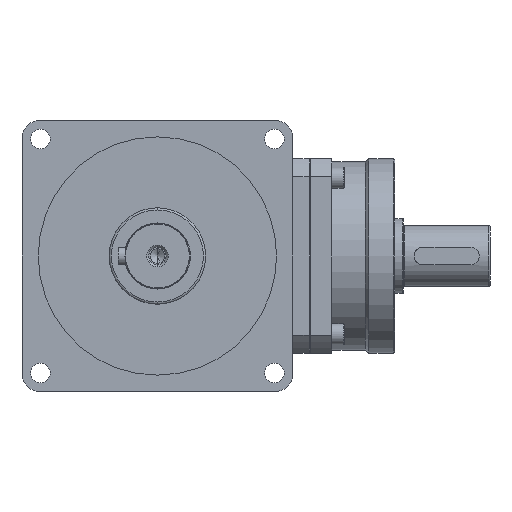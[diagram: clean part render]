
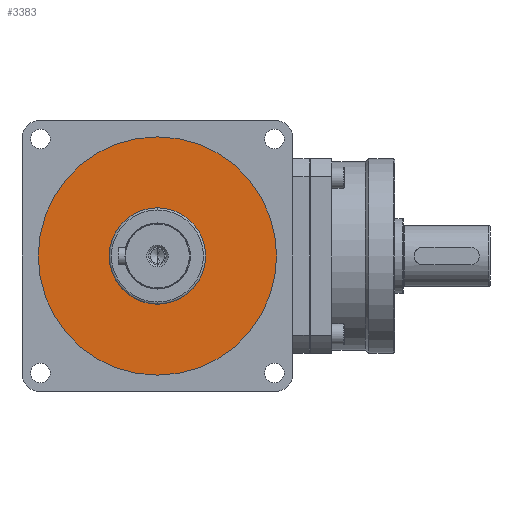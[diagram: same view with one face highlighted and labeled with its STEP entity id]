
A CAD part, left-side view. The second image highlights one B-rep face of the part: STEP entity #3383.
In plain terms, the highlighted planar face has unit normal (-1, 0, 0).
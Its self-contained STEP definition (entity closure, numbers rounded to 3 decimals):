
#52 = DIRECTION ( 'NONE',  ( 0., 0., 1. ) ) ;
#63 = ORIENTED_EDGE ( 'NONE', *, *, #4361, .T. ) ;
#266 = FACE_OUTER_BOUND ( 'NONE', #13975, .T. ) ;
#273 = AXIS2_PLACEMENT_3D ( 'NONE', #4653, #13395, #3563 ) ;
#1342 = FACE_BOUND ( 'NONE', #12687, .T. ) ;
#1376 = DIRECTION ( 'NONE',  ( -1., 0., 0. ) ) ;
#1474 = AXIS2_PLACEMENT_3D ( 'NONE', #5781, #9914, #6700 ) ;
#1875 = CIRCLE ( 'NONE', #4636, 55. ) ;
#2087 = AXIS2_PLACEMENT_3D ( 'NONE', #9760, #13177, #7403 ) ;
#2660 = VERTEX_POINT ( 'NONE', #4909 ) ;
#3233 = EDGE_CURVE ( 'NONE', #5793, #12661, #12097, .T. ) ;
#3383 = ADVANCED_FACE ( 'NONE', ( #1342, #266 ), #5701, .T. ) ;
#3563 = DIRECTION ( 'NONE',  ( 0., 0., 1. ) ) ;
#4361 = EDGE_CURVE ( 'NONE', #12661, #5793, #1875, .T. ) ;
#4636 = AXIS2_PLACEMENT_3D ( 'NONE', #5804, #1376, #5733 ) ;
#4653 = CARTESIAN_POINT ( 'NONE',  ( -41.5, 0., 0. ) ) ;
#4909 = CARTESIAN_POINT ( 'NONE',  ( -41.5, 0., 22.25 ) ) ;
#5288 = AXIS2_PLACEMENT_3D ( 'NONE', #6549, #8547, #52 ) ;
#5321 = VERTEX_POINT ( 'NONE', #9434 ) ;
#5701 = PLANE ( 'NONE',  #273 ) ;
#5733 = DIRECTION ( 'NONE',  ( 0., 0., 1. ) ) ;
#5781 = CARTESIAN_POINT ( 'NONE',  ( -41.5, 0., 0. ) ) ;
#5793 = VERTEX_POINT ( 'NONE', #12551 ) ;
#5804 = CARTESIAN_POINT ( 'NONE',  ( -41.5, 0., 0. ) ) ;
#5919 = EDGE_CURVE ( 'NONE', #2660, #5321, #8033, .T. ) ;
#6314 = ORIENTED_EDGE ( 'NONE', *, *, #5919, .F. ) ;
#6549 = CARTESIAN_POINT ( 'NONE',  ( -41.5, 0., 0. ) ) ;
#6700 = DIRECTION ( 'NONE',  ( 0., 0., 1. ) ) ;
#7403 = DIRECTION ( 'NONE',  ( 0., 0., 1. ) ) ;
#8033 = CIRCLE ( 'NONE', #2087, 22.25 ) ;
#8055 = ORIENTED_EDGE ( 'NONE', *, *, #3233, .T. ) ;
#8547 = DIRECTION ( 'NONE',  ( -1., 0., 0. ) ) ;
#9434 = CARTESIAN_POINT ( 'NONE',  ( -41.5, 0., -22.25 ) ) ;
#9760 = CARTESIAN_POINT ( 'NONE',  ( -41.5, 0., 0. ) ) ;
#9914 = DIRECTION ( 'NONE',  ( -1., 0., 0. ) ) ;
#10147 = CIRCLE ( 'NONE', #1474, 22.25 ) ;
#10209 = EDGE_CURVE ( 'NONE', #5321, #2660, #10147, .T. ) ;
#10792 = CARTESIAN_POINT ( 'NONE',  ( -41.5, 0., 55. ) ) ;
#12097 = CIRCLE ( 'NONE', #5288, 55. ) ;
#12551 = CARTESIAN_POINT ( 'NONE',  ( -41.5, 0., -55. ) ) ;
#12661 = VERTEX_POINT ( 'NONE', #10792 ) ;
#12687 = EDGE_LOOP ( 'NONE', ( #13634, #6314 ) ) ;
#13177 = DIRECTION ( 'NONE',  ( -1., 0., 0. ) ) ;
#13395 = DIRECTION ( 'NONE',  ( -1., 0., 0. ) ) ;
#13634 = ORIENTED_EDGE ( 'NONE', *, *, #10209, .F. ) ;
#13975 = EDGE_LOOP ( 'NONE', ( #63, #8055 ) ) ;
